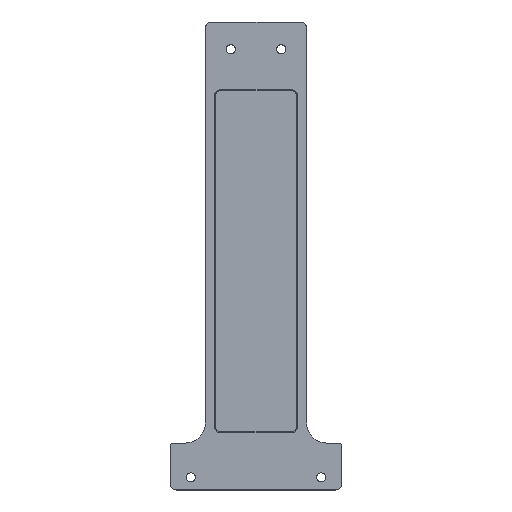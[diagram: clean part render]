
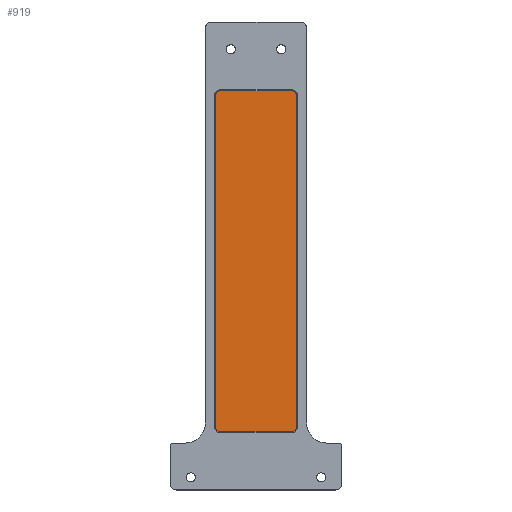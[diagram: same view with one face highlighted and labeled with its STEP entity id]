
A CAD part, top view. The second image highlights one B-rep face of the part: STEP entity #919.
In plain terms, the highlighted planar face has unit normal (0, 0, 1).
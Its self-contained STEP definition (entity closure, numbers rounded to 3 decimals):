
#7 = DIRECTION ( 'NONE',  ( 0., 0., -1. ) ) ;
#13 = AXIS2_PLACEMENT_3D ( 'NONE', #463, #959, #862 ) ;
#22 = EDGE_CURVE ( 'NONE', #1121, #416, #1104, .T. ) ;
#30 = EDGE_CURVE ( 'NONE', #1130, #1227, #858, .T. ) ;
#39 = CARTESIAN_POINT ( 'NONE',  ( 20., 37.5, 2.25 ) ) ;
#88 = EDGE_CURVE ( 'NONE', #416, #1171, #601, .T. ) ;
#89 = ORIENTED_EDGE ( 'NONE', *, *, #874, .F. ) ;
#93 = DIRECTION ( 'NONE',  ( 1., 0., 0. ) ) ;
#114 = CARTESIAN_POINT ( 'NONE',  ( 17.5, 201.5, 2.25 ) ) ;
#116 = ORIENTED_EDGE ( 'NONE', *, *, #1058, .F. ) ;
#120 = CARTESIAN_POINT ( 'NONE',  ( 20., 201.5, 2.25 ) ) ;
#158 = DIRECTION ( 'NONE',  ( -1., 0., 0. ) ) ;
#180 = CARTESIAN_POINT ( 'NONE',  ( -17.5, 37.5, 2.25 ) ) ;
#194 = VERTEX_POINT ( 'NONE', #120 ) ;
#219 = CARTESIAN_POINT ( 'NONE',  ( -17.5, 35., 2.25 ) ) ;
#243 = DIRECTION ( 'NONE',  ( 0., 0., -1. ) ) ;
#260 = LINE ( 'NONE', #453, #1292 ) ;
#294 = CARTESIAN_POINT ( 'NONE',  ( -20., 37.5, 2.25 ) ) ;
#303 = EDGE_CURVE ( 'NONE', #1227, #1121, #260, .T. ) ;
#341 = ORIENTED_EDGE ( 'NONE', *, *, #88, .F. ) ;
#370 = DIRECTION ( 'NONE',  ( 0., 1., 0. ) ) ;
#396 = CIRCLE ( 'NONE', #772, 2.5 ) ;
#413 = CARTESIAN_POINT ( 'NONE',  ( 17.5, 204., 2.25 ) ) ;
#416 = VERTEX_POINT ( 'NONE', #1153 ) ;
#417 = DIRECTION ( 'NONE',  ( 1., 0., 0. ) ) ;
#453 = CARTESIAN_POINT ( 'NONE',  ( -20., 39.5, 2.25 ) ) ;
#457 = ORIENTED_EDGE ( 'NONE', *, *, #865, .F. ) ;
#463 = CARTESIAN_POINT ( 'NONE',  ( -17.5, 201.5, 2.25 ) ) ;
#478 = CARTESIAN_POINT ( 'NONE',  ( 35., 204., 2.25 ) ) ;
#481 = VECTOR ( 'NONE', #1123, 1000. ) ;
#498 = DIRECTION ( 'NONE',  ( 1., 0., 0. ) ) ;
#500 = AXIS2_PLACEMENT_3D ( 'NONE', #180, #1288, #976 ) ;
#521 = CARTESIAN_POINT ( 'NONE',  ( 35., 39.5, 2.25 ) ) ;
#601 = LINE ( 'NONE', #478, #1271 ) ;
#603 = ORIENTED_EDGE ( 'NONE', *, *, #22, .F. ) ;
#617 = LINE ( 'NONE', #634, #481 ) ;
#634 = CARTESIAN_POINT ( 'NONE',  ( 20., 39.5, 2.25 ) ) ;
#670 = VECTOR ( 'NONE', #158, 1000. ) ;
#761 = LINE ( 'NONE', #1053, #670 ) ;
#772 = AXIS2_PLACEMENT_3D ( 'NONE', #1222, #243, #417 ) ;
#774 = CIRCLE ( 'NONE', #1256, 2.5 ) ;
#816 = AXIS2_PLACEMENT_3D ( 'NONE', #521, #914, #1216 ) ;
#817 = PLANE ( 'NONE',  #816 ) ;
#850 = ORIENTED_EDGE ( 'NONE', *, *, #1161, .F. ) ;
#858 = CIRCLE ( 'NONE', #500, 2.5 ) ;
#862 = DIRECTION ( 'NONE',  ( 1., 0., 0. ) ) ;
#865 = EDGE_CURVE ( 'NONE', #1264, #1052, #396, .T. ) ;
#874 = EDGE_CURVE ( 'NONE', #194, #1264, #617, .T. ) ;
#914 = DIRECTION ( 'NONE',  ( 0., 0., 1. ) ) ;
#919 = ADVANCED_FACE ( 'NONE', ( #942 ), #817, .T. ) ;
#942 = FACE_OUTER_BOUND ( 'NONE', #1289, .T. ) ;
#952 = ORIENTED_EDGE ( 'NONE', *, *, #30, .F. ) ;
#959 = DIRECTION ( 'NONE',  ( 0., 0., -1. ) ) ;
#976 = DIRECTION ( 'NONE',  ( 1., 0., 0. ) ) ;
#1009 = CARTESIAN_POINT ( 'NONE',  ( -20., 201.5, 2.25 ) ) ;
#1052 = VERTEX_POINT ( 'NONE', #1063 ) ;
#1053 = CARTESIAN_POINT ( 'NONE',  ( 35., 35., 2.25 ) ) ;
#1058 = EDGE_CURVE ( 'NONE', #1052, #1130, #761, .T. ) ;
#1063 = CARTESIAN_POINT ( 'NONE',  ( 17.5, 35., 2.25 ) ) ;
#1104 = CIRCLE ( 'NONE', #13, 2.5 ) ;
#1121 = VERTEX_POINT ( 'NONE', #1009 ) ;
#1123 = DIRECTION ( 'NONE',  ( 0., -1., 0. ) ) ;
#1130 = VERTEX_POINT ( 'NONE', #219 ) ;
#1153 = CARTESIAN_POINT ( 'NONE',  ( -17.5, 204., 2.25 ) ) ;
#1156 = ORIENTED_EDGE ( 'NONE', *, *, #303, .F. ) ;
#1161 = EDGE_CURVE ( 'NONE', #1171, #194, #774, .T. ) ;
#1171 = VERTEX_POINT ( 'NONE', #413 ) ;
#1216 = DIRECTION ( 'NONE',  ( 1., 0., 0. ) ) ;
#1222 = CARTESIAN_POINT ( 'NONE',  ( 17.5, 37.5, 2.25 ) ) ;
#1227 = VERTEX_POINT ( 'NONE', #294 ) ;
#1256 = AXIS2_PLACEMENT_3D ( 'NONE', #114, #7, #498 ) ;
#1264 = VERTEX_POINT ( 'NONE', #39 ) ;
#1271 = VECTOR ( 'NONE', #93, 1000. ) ;
#1288 = DIRECTION ( 'NONE',  ( 0., 0., -1. ) ) ;
#1289 = EDGE_LOOP ( 'NONE', ( #850, #341, #603, #1156, #952, #116, #457, #89 ) ) ;
#1292 = VECTOR ( 'NONE', #370, 1000. ) ;
